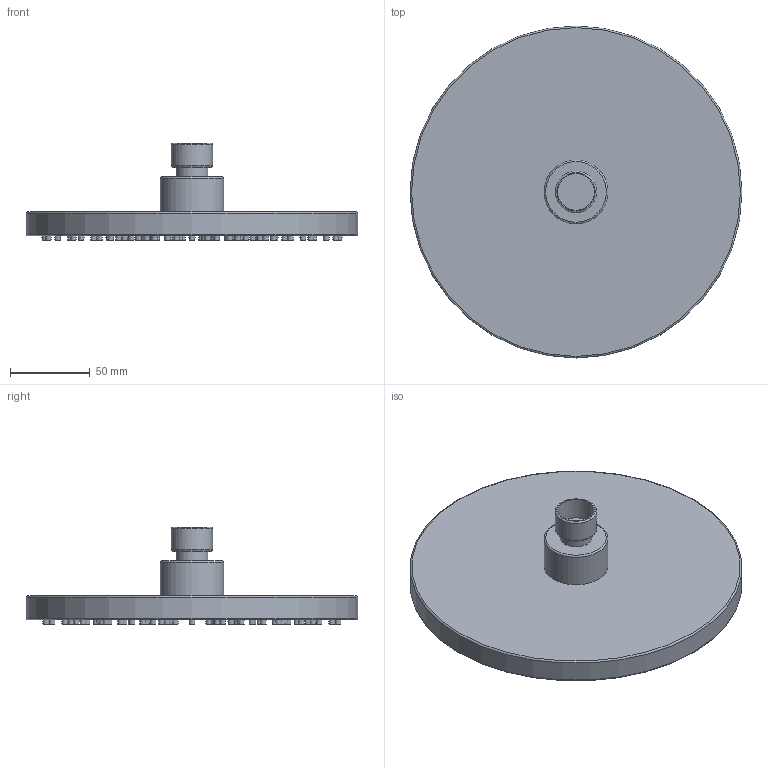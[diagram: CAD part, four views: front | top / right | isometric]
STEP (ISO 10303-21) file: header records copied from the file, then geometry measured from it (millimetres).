
FILE_DESCRIPTION(('STEP AP242'), '1');
FILE_NAME('50CR759TCARE20E', '', ('UNSPECIFIED'), ('UNSPECIFIED'), 'ASCON STEP Converter 1.6', 'ASCON Math Kernel', '');
FILE_SCHEMA(('AP242_MANAGED_MODEL_BASED_3D_ENGINEERING_MIM_LF { 1 0 10303 442 1 1 4 }'));
Length unit declared in the file: millimetre
Bounding box: 208 x 208 x 61 mm (x, y, z)
Volume: 543936.3 mm3; surface area: 91078.1 mm2
Topology: 121 solids, 121 shells, 496 faces, 745 edges, 495 vertices
Faces by surface type: plane 246, cone 240, cylinder 5, torus 5
Full cylindrical faces by diameter (mm): 20 x1, 23 x1, 26 x1, 40 x1, 208 x1
Entity records: 15122 total; most frequent: DIRECTION 1984, CARTESIAN_POINT 1487, AXIS2_PLACEMENT_3D 992, EDGE_LOOP 990, ORIENTED_EDGE 990, COLOUR_RGB 617, FILL_AREA_STYLE_COLOUR 617, FILL_AREA_STYLE 617
